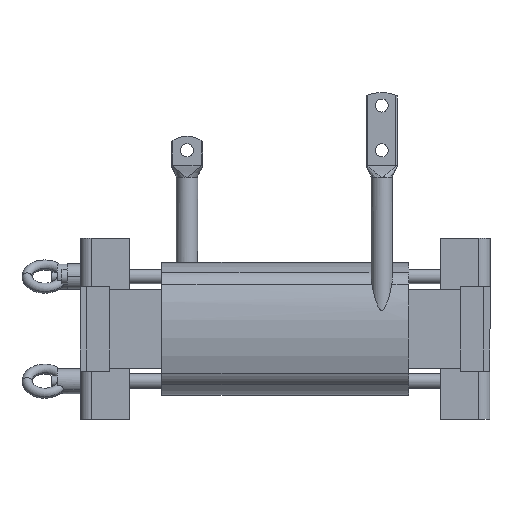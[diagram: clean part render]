
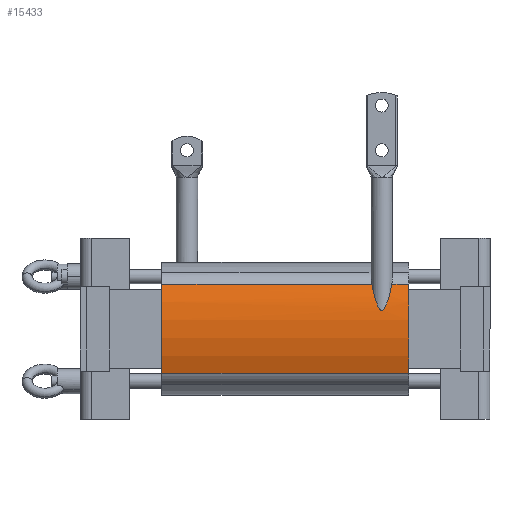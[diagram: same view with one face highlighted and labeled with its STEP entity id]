
A CAD part, left-side view. The second image highlights one B-rep face of the part: STEP entity #15433.
In plain terms, the highlighted cylindrical face has radius 124.417 mm (diameter 248.833 mm), a partial arc.
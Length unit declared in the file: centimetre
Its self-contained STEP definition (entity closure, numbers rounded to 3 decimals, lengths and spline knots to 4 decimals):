
#89 = CARTESIAN_POINT ( 'NONE',  ( -9.7583, 8.1, 0. ) ) ;
#446 = DIRECTION ( 'NONE',  ( 0., 0., -1. ) ) ;
#842 = CARTESIAN_POINT ( 'NONE',  ( -21.3879, 32.62, -4.4213 ) ) ;
#848 = CARTESIAN_POINT ( 'NONE',  ( -22.0227, 11.0553, 2.0938 ) ) ;
#954 = CARTESIAN_POINT ( 'NONE',  ( -22.0613, 10.846, 1.8527 ) ) ;
#1059 = CARTESIAN_POINT ( 'NONE',  ( -22.0642, 10.7112, 1.8335 ) ) ;
#1070 = VERTEX_POINT ( 'NONE', #2297 ) ;
#1171 = CARTESIAN_POINT ( 'NONE',  ( -21.3879, 11.7479, 4.4213 ) ) ;
#1178 = VERTEX_POINT ( 'NONE', #2505 ) ;
#1283 = CARTESIAN_POINT ( 'NONE',  ( -21.9896, 10.3613, 2.2793 ) ) ;
#1393 = CARTESIAN_POINT ( 'NONE',  ( -21.3879, 9.7642, 4.4213 ) ) ;
#1399 = ORIENTED_EDGE ( 'NONE', *, *, #10739, .T. ) ;
#1501 = CARTESIAN_POINT ( 'NONE',  ( -22.0577, 10.629, 1.8762 ) ) ;
#1504 = DIRECTION ( 'NONE',  ( 0., -1., 0. ) ) ;
#1784 = DIRECTION ( 'NONE',  ( 0., -1., 0. ) ) ;
#2297 = CARTESIAN_POINT ( 'NONE',  ( -21.3879, 8.1, 4.4213 ) ) ;
#2505 = CARTESIAN_POINT ( 'NONE',  ( -21.3879, 9.7642, 4.4213 ) ) ;
#2506 = EDGE_CURVE ( 'NONE', #15698, #1070, #12260, .T. ) ;
#2695 = CARTESIAN_POINT ( 'NONE',  ( -22.0647, 10.7267, 1.8298 ) ) ;
#2732 = CIRCLE ( 'NONE', #17287, 12.4417 ) ;
#2951 = VERTEX_POINT ( 'NONE', #8628 ) ;
#3099 = LINE ( 'NONE', #18077, #20317 ) ;
#3132 = CARTESIAN_POINT ( 'NONE',  ( -21.846, 10.1075, 2.9492 ) ) ;
#3351 = DIRECTION ( 'NONE',  ( 0., 1., 0. ) ) ;
#3375 = DIRECTION ( 'NONE',  ( 0., -1., 0. ) ) ;
#3448 = B_SPLINE_CURVE_WITH_KNOTS ( 'NONE', 3,
 ( #1171, #14428, #15741, #7493, #9559, #7386, #5956, #14009, #12382, #20612, #5746, #4114, #848, #14112, #15948, #10869, #5854, #12478, #19077, #4219, #954, #7600, #14214, #20823, #12585, #2695, #1059, #14871, #14535, #1501, #14974, #21270, #16279, #13332, #18220, #6518, #4763, #1283, #8376, #21159, #5089, #12917, #3132, #17890, #10100, #11404, #9673, #13126, #9891, #1393 ),
 .UNSPECIFIED., .F., .F.,
 ( 4, 2, 2, 2, 2, 2, 2, 2, 2, 2, 2, 2, 2, 2, 2, 2, 2, 2, 2, 2, 2, 2, 2, 2, 4 ),
 ( 0.0099, 0.0172, 0.0246, 0.0282, 0.0319, 0.0337, 0.0356, 0.0365, 0.0374, 0.0379, 0.0383, 0.0388, 0.0392, 0.0397, 0.0402, 0.0411, 0.042, 0.0429, 0.0448, 0.0466, 0.0503, 0.0539, 0.0576, 0.0613, 0.0686 ),
 .UNSPECIFIED. ) ;
#3948 = LINE ( 'NONE', #18705, #10840 ) ;
#4114 = CARTESIAN_POINT ( 'NONE',  ( -22.0134, 11.0848, 2.1474 ) ) ;
#4219 = CARTESIAN_POINT ( 'NONE',  ( -22.0601, 10.8593, 1.8609 ) ) ;
#4763 = CARTESIAN_POINT ( 'NONE',  ( -22.0093, 10.4149, 2.1707 ) ) ;
#5010 = LINE ( 'NONE', #18248, #6703 ) ;
#5089 = CARTESIAN_POINT ( 'NONE',  ( -21.9234, 10.2233, 2.6115 ) ) ;
#5094 = DIRECTION ( 'NONE',  ( 0., 0., -1. ) ) ;
#5701 = EDGE_CURVE ( 'NONE', #13487, #1178, #3448, .T. ) ;
#5746 = CARTESIAN_POINT ( 'NONE',  ( -21.9938, 11.14, 2.2563 ) ) ;
#5854 = CARTESIAN_POINT ( 'NONE',  ( -22.0509, 10.9302, 1.9204 ) ) ;
#5956 = CARTESIAN_POINT ( 'NONE',  ( -21.8768, 11.3625, 2.8199 ) ) ;
#6518 = CARTESIAN_POINT ( 'NONE',  ( -22.0187, 10.4437, 2.1168 ) ) ;
#6581 = ORIENTED_EDGE ( 'NONE', *, *, #9408, .F. ) ;
#6703 = VECTOR ( 'NONE', #3375, 100. ) ;
#7386 = CARTESIAN_POINT ( 'NONE',  ( -21.8496, 11.3998, 2.9342 ) ) ;
#7493 = CARTESIAN_POINT ( 'NONE',  ( -21.6973, 11.5659, 3.509 ) ) ;
#7600 = CARTESIAN_POINT ( 'NONE',  ( -22.0633, 10.8181, 1.8394 ) ) ;
#8053 = ORIENTED_EDGE ( 'NONE', *, *, #14865, .F. ) ;
#8241 = AXIS2_PLACEMENT_3D ( 'NONE', #15330, #8524, #446 ) ;
#8376 = CARTESIAN_POINT ( 'NONE',  ( -21.9792, 10.3365, 2.3341 ) ) ;
#8524 = DIRECTION ( 'NONE',  ( 0., -1., 0. ) ) ;
#8628 = CARTESIAN_POINT ( 'NONE',  ( -21.3879, 32.62, 4.4213 ) ) ;
#8714 = CARTESIAN_POINT ( 'NONE',  ( -21.3879, 8.1, -4.4213 ) ) ;
#8738 = CYLINDRICAL_SURFACE ( 'NONE', #8241, 12.4417 ) ;
#9408 = EDGE_CURVE ( 'NONE', #1178, #1070, #3948, .T. ) ;
#9559 = CARTESIAN_POINT ( 'NONE',  ( -21.7627, 11.5049, 3.2781 ) ) ;
#9673 = CARTESIAN_POINT ( 'NONE',  ( -21.6588, 9.9181, 3.6315 ) ) ;
#9891 = CARTESIAN_POINT ( 'NONE',  ( -21.4732, 9.7975, 4.197 ) ) ;
#10100 = CARTESIAN_POINT ( 'NONE',  ( -21.7578, 10.0064, 3.2898 ) ) ;
#10287 = DIRECTION ( 'NONE',  ( 0., -1., 0. ) ) ;
#10739 = EDGE_CURVE ( 'NONE', #15774, #15698, #5010, .T. ) ;
#10840 = VECTOR ( 'NONE', #10287, 100. ) ;
#10869 = CARTESIAN_POINT ( 'NONE',  ( -22.0473, 10.9503, 1.9434 ) ) ;
#10905 = EDGE_LOOP ( 'NONE', ( #18907, #8053, #18569, #1399, #13639, #6581 ) ) ;
#11404 = CARTESIAN_POINT ( 'NONE',  ( -21.6929, 9.946, 3.5178 ) ) ;
#12260 = CIRCLE ( 'NONE', #18487, 12.4417 ) ;
#12382 = CARTESIAN_POINT ( 'NONE',  ( -21.9511, 11.2383, 2.479 ) ) ;
#12478 = CARTESIAN_POINT ( 'NONE',  ( -22.0558, 10.8963, 1.8889 ) ) ;
#12585 = CARTESIAN_POINT ( 'NONE',  ( -22.0651, 10.7575, 1.8271 ) ) ;
#12654 = CARTESIAN_POINT ( 'NONE',  ( -21.3879, 11.7479, 4.4213 ) ) ;
#12917 = CARTESIAN_POINT ( 'NONE',  ( -21.873, 10.1442, 2.8362 ) ) ;
#13126 = CARTESIAN_POINT ( 'NONE',  ( -21.5515, 9.8407, 3.9716 ) ) ;
#13228 = CARTESIAN_POINT ( 'NONE',  ( -9.7583, 32.62, 0. ) ) ;
#13332 = CARTESIAN_POINT ( 'NONE',  ( -22.0359, 10.5082, 2.014 ) ) ;
#13487 = VERTEX_POINT ( 'NONE', #12654 ) ;
#13639 = ORIENTED_EDGE ( 'NONE', *, *, #2506, .T. ) ;
#14009 = CARTESIAN_POINT ( 'NONE',  ( -21.9275, 11.2817, 2.5924 ) ) ;
#14112 = CARTESIAN_POINT ( 'NONE',  ( -22.0355, 11.0055, 2.0166 ) ) ;
#14214 = CARTESIAN_POINT ( 'NONE',  ( -22.064, 10.8036, 1.8343 ) ) ;
#14428 = CARTESIAN_POINT ( 'NONE',  ( -21.4741, 11.7142, 4.1947 ) ) ;
#14535 = CARTESIAN_POINT ( 'NONE',  ( -22.0615, 10.6682, 1.8516 ) ) ;
#14865 = EDGE_CURVE ( 'NONE', #2951, #13487, #3099, .T. ) ;
#14871 = CARTESIAN_POINT ( 'NONE',  ( -22.0625, 10.6822, 1.8444 ) ) ;
#14974 = CARTESIAN_POINT ( 'NONE',  ( -22.0546, 10.6059, 1.8968 ) ) ;
#14976 = DIRECTION ( 'NONE',  ( 0., 0., 1. ) ) ;
#15330 = CARTESIAN_POINT ( 'NONE',  ( -9.7583, 50.8683, 0. ) ) ;
#15433 = ADVANCED_FACE ( 'NONE', ( #16752 ), #8738, .T. ) ;
#15698 = VERTEX_POINT ( 'NONE', #8714 ) ;
#15741 = CARTESIAN_POINT ( 'NONE',  ( -21.5531, 11.6705, 3.967 ) ) ;
#15774 = VERTEX_POINT ( 'NONE', #842 ) ;
#15948 = CARTESIAN_POINT ( 'NONE',  ( -22.0396, 10.988, 1.9915 ) ) ;
#16279 = CARTESIAN_POINT ( 'NONE',  ( -22.0439, 10.5441, 1.965 ) ) ;
#16752 = FACE_OUTER_BOUND ( 'NONE', #10905, .T. ) ;
#17287 = AXIS2_PLACEMENT_3D ( 'NONE', #13228, #1504, #5094 ) ;
#17890 = CARTESIAN_POINT ( 'NONE',  ( -21.7884, 10.0386, 3.176 ) ) ;
#18026 = EDGE_CURVE ( 'NONE', #2951, #15774, #2732, .T. ) ;
#18077 = CARTESIAN_POINT ( 'NONE',  ( -21.3879, 50.8683, 4.4213 ) ) ;
#18220 = CARTESIAN_POINT ( 'NONE',  ( -22.0318, 10.4915, 2.0393 ) ) ;
#18248 = CARTESIAN_POINT ( 'NONE',  ( -21.3879, 50.8683, -4.4213 ) ) ;
#18487 = AXIS2_PLACEMENT_3D ( 'NONE', #89, #3351, #14976 ) ;
#18569 = ORIENTED_EDGE ( 'NONE', *, *, #18026, .T. ) ;
#18705 = CARTESIAN_POINT ( 'NONE',  ( -21.3879, 50.8683, 4.4213 ) ) ;
#18907 = ORIENTED_EDGE ( 'NONE', *, *, #5701, .F. ) ;
#19077 = CARTESIAN_POINT ( 'NONE',  ( -22.0573, 10.8844, 1.8789 ) ) ;
#20317 = VECTOR ( 'NONE', #1784, 100. ) ;
#20612 = CARTESIAN_POINT ( 'NONE',  ( -21.9835, 11.1655, 2.3116 ) ) ;
#20823 = CARTESIAN_POINT ( 'NONE',  ( -22.065, 10.7733, 1.8281 ) ) ;
#21159 = CARTESIAN_POINT ( 'NONE',  ( -21.9468, 10.2656, 2.4998 ) ) ;
#21270 = CARTESIAN_POINT ( 'NONE',  ( -22.0476, 10.5633, 1.9413 ) ) ;
